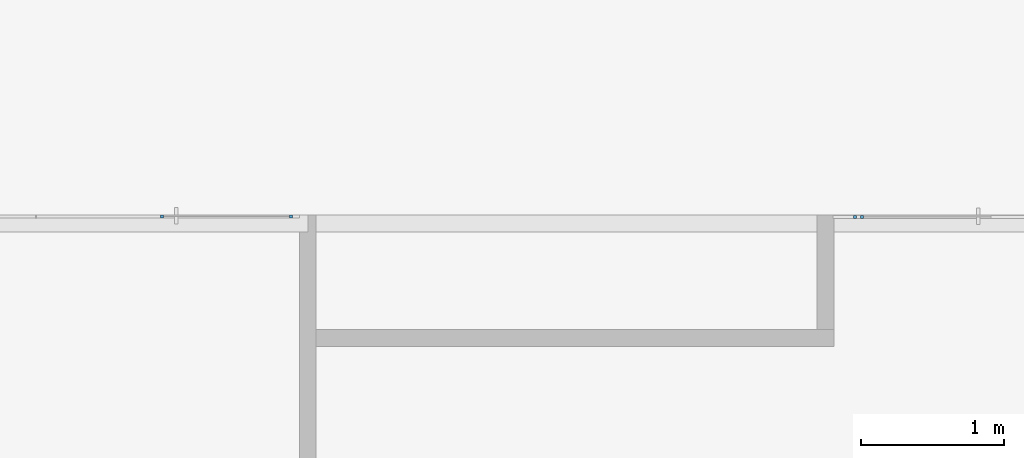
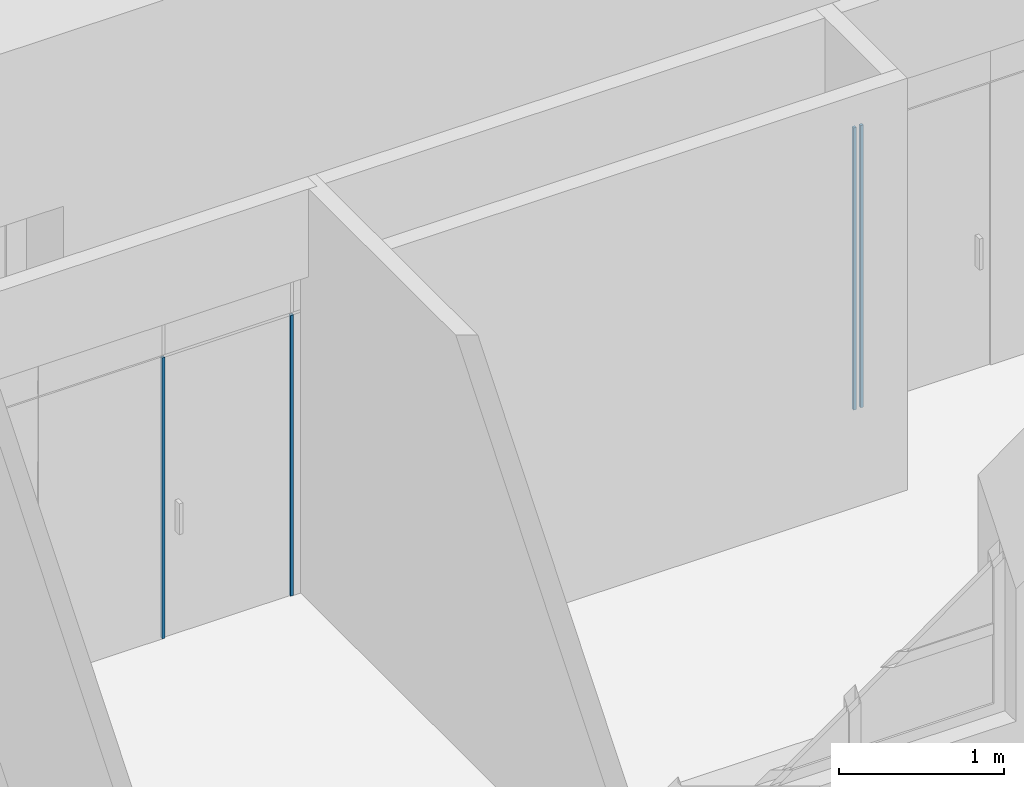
# One storey, part 2 of 66: 4 members, 2 elements without a shape of their own.
"""IFC2X3 building model written with IfcOpenShell, lengths in millimetres."""

from ifc_helpers import new_model, entity, si_unit, converted_unit, derived_unit, direction, frame, origin, origin_2d_with_axis, place, context, subcontext, project, spatial, rectangle, extrude, source, transform, mapped, material, type_object, type_shapes, element, aggregate, save


model = new_model("IFC2X3")

# Units and contexts
model_context = context("Model", 3, precision=0.01, world=origin(), true_north=direction((6.12303176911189e-17, 1.0)))
body_context = subcontext(model_context, "Body", "Model", "MODEL_VIEW")
ifc_project = project(units=[si_unit("LENGTHUNIT", "METRE", prefix="MILLI"), si_unit("AREAUNIT", "SQUARE_METRE"), si_unit("VOLUMEUNIT", "CUBIC_METRE"), converted_unit("PLANEANGLEUNIT", "DEGREE", entity("IfcRatioMeasure", 0.0174532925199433), si_unit("PLANEANGLEUNIT", "RADIAN"), dimensions=[0, 0, 0, 0, 0, 0, 0]), si_unit("MASSUNIT", "GRAM", prefix="KILO"), derived_unit("MASSDENSITYUNIT", [(si_unit("MASSUNIT", "GRAM", prefix="KILO"), 1), (si_unit("LENGTHUNIT", "METRE"), -3)]), si_unit("TIMEUNIT", "SECOND"), si_unit("FREQUENCYUNIT", "HERTZ"), si_unit("THERMODYNAMICTEMPERATUREUNIT", "DEGREE_CELSIUS"), derived_unit("THERMALTRANSMITTANCEUNIT", [(si_unit("MASSUNIT", "GRAM", prefix="KILO"), 1), (si_unit("THERMODYNAMICTEMPERATUREUNIT", "KELVIN"), -1), (si_unit("TIMEUNIT", "SECOND"), -3)]), derived_unit("VOLUMETRICFLOWRATEUNIT", [(si_unit("LENGTHUNIT", "METRE"), 3), (si_unit("TIMEUNIT", "SECOND"), -1)]), si_unit("ELECTRICCURRENTUNIT", "AMPERE"), si_unit("ELECTRICVOLTAGEUNIT", "VOLT"), si_unit("POWERUNIT", "WATT"), si_unit("FORCEUNIT", "NEWTON", prefix="KILO"), si_unit("ILLUMINANCEUNIT", "LUX"), si_unit("LUMINOUSFLUXUNIT", "LUMEN"), si_unit("LUMINOUSINTENSITYUNIT", "CANDELA"), derived_unit("USERDEFINED", [(si_unit("MASSUNIT", "GRAM", prefix="KILO"), -1), (si_unit("LENGTHUNIT", "METRE"), -2), (si_unit("TIMEUNIT", "SECOND"), 3), (si_unit("LUMINOUSFLUXUNIT", "LUMEN"), 1)]), derived_unit("LINEARVELOCITYUNIT", [(si_unit("LENGTHUNIT", "METRE"), 1), (si_unit("TIMEUNIT", "SECOND"), -1)]), si_unit("PRESSUREUNIT", "PASCAL"), derived_unit("USERDEFINED", [(si_unit("LENGTHUNIT", "METRE"), -2), (si_unit("MASSUNIT", "GRAM", prefix="KILO"), 1), (si_unit("TIMEUNIT", "SECOND"), -2)])], contexts=[model_context])

# Site, building, storey
site_placement = place(None, frame((-151.875543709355, 2715.0, 0.0)))
site = spatial("IfcSite", under=ifc_project, at=site_placement, Name="Surface", CompositionType="ELEMENT")
building_placement = place(site_placement, origin())
building = spatial("IfcBuilding", under=site, at=building_placement, CompositionType="ELEMENT")
storey_placement = place(building_placement, frame((0.0, 0.0, 3350.0)))
storey = spatial("IfcBuildingStorey", under=building, at=storey_placement, Name="2 korrus", CompositionType="ELEMENT", Elevation=3350.00000000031)

# Curtain wall, member
curtain_wall_type_1 = type_object("IfcCurtainWallType", Name="Curtain Wall:Klaassein KLS-08", PredefinedType="NOTDEFINED")
curtain_wall_1_placement = place(storey_placement, frame((0.0, 0.0, -3350.0)))
curtain_wall_1 = element("IfcCurtainWall", 1, at=curtain_wall_1_placement, inside=storey, type_object=curtain_wall_type_1, Name="Curtain Wall:Klaassein KLS-08", ObjectType="Curtain Wall:Klaassein KLS-08")
ifc_material = material(Name="__Uks_hele tamm")
member_type_1 = type_object("IfcMemberType", Name="20 x 20mm", PredefinedType="MEMBER")
shared_shape_1 = source(origin(), body_context, "Body", "SweptSolid", [
    extrude(rectangle(XDim=20.0, YDim=20.0, at=origin_2d_with_axis()), frame((0.0, 0.0, -2080.0), z_axis=(0.0, 0.0, 1.0), x_axis=(0.0, -1.0, 0.0)), (0.0, 0.0, 1.0), 2080.0),
])
type_shapes(member_type_1, [shared_shape_1])
member_1_placement = place(storey_placement, frame((8539.56472640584, 4355.04493399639, 0.0), z_axis=(0.0, 0.0, -1.0), x_axis=(1.0, 0.0, 0.0)))
member_1 = element("IfcMember", 2, at=member_1_placement, type_object=member_type_1, material=ifc_material, Name="Rectangular Mullion:20 x 20mm", ObjectType="20 x 20mm", context=body_context, shape_type="MappedRepresentation", body=[
    mapped(shared_shape_1, transform((0.0, 0.0, 0.0), scale=1.0)),
])

# Curtain wall, members
curtain_wall_type_2 = type_object("IfcCurtainWallType", Name="Curtain Wall:Klaassein KLS-09", PredefinedType="NOTDEFINED")
curtain_wall_2_placement = place(storey_placement, frame((0.0, 0.0, -3350.0)))
curtain_wall_2 = element("IfcCurtainWall", 3, at=curtain_wall_2_placement, inside=storey, type_object=curtain_wall_type_2, Name="Curtain Wall:Klaassein KLS-09", ObjectType="Curtain Wall:Klaassein KLS-09")
member_type_2 = type_object("IfcMemberType", Name="20 x 20mm", PredefinedType="MEMBER")
shared_shape_2 = source(origin(), body_context, "Body", "SweptSolid", [
    extrude(rectangle(XDim=20.0, YDim=20.0, at=origin_2d_with_axis()), frame((0.0, 0.0, -2090.0), z_axis=(0.0, 0.0, 1.0), x_axis=(0.0, -1.0, 0.0)), (0.0, 0.0, 1.0), 2090.0),
])
type_shapes(member_type_2, [shared_shape_2])
member_2_placement = place(storey_placement, frame((13378.5552877, 4352.04493399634, 0.0), z_axis=(0.0, 0.0, -1.0), x_axis=(1.0, 0.0, 0.0)))
member_2 = element("IfcMember", 4, at=member_2_placement, type_object=member_type_2, material=ifc_material, Name="Rectangular Mullion:20 x 20mm", ObjectType="20 x 20mm", context=body_context, shape_type="MappedRepresentation", body=[
    mapped(shared_shape_2, transform((0.0, 0.0, 0.0), scale=1.0)),
])
member_3_placement = place(storey_placement, frame((13428.5552877, 4352.04493399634, 0.0), z_axis=(0.0, 0.0, -1.0), x_axis=(1.0, 0.0, 0.0)))
member_3 = element("IfcMember", 5, at=member_3_placement, type_object=member_type_2, material=ifc_material, Name="Rectangular Mullion:20 x 20mm", ObjectType="20 x 20mm", context=body_context, shape_type="MappedRepresentation", body=[
    mapped(shared_shape_2, transform((0.0, 0.0, 0.0), scale=1.0)),
])
aggregate(curtain_wall_2, [member_2, member_3])

# Member
member_type_3 = type_object("IfcMemberType", Name="20 x 20mm", PredefinedType="MEMBER")
shared_shape_3 = source(origin(), body_context, "Body", "SweptSolid", [
    extrude(rectangle(XDim=20.0, YDim=20.0, at=origin_2d_with_axis()), frame((0.0, 0.0, -2080.0), z_axis=(0.0, 0.0, 1.0), x_axis=(0.0, -1.0, 0.0)), (0.0, 0.0, 1.0), 2080.0),
])
type_shapes(member_type_3, [shared_shape_3])
member_4_placement = place(storey_placement, frame((9439.56472640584, 4355.0449339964, 0.0), z_axis=(0.0, 0.0, -1.0), x_axis=(1.0, 0.0, 0.0)))
member_4 = element("IfcMember", 6, at=member_4_placement, type_object=member_type_3, material=ifc_material, Name="Rectangular Mullion:20 x 20mm", ObjectType="20 x 20mm", context=body_context, shape_type="MappedRepresentation", body=[
    mapped(shared_shape_3, transform((0.0, 0.0, 0.0), scale=1.0)),
])

aggregate(curtain_wall_1, [member_1, member_4])

save(model, "model.ifc")
